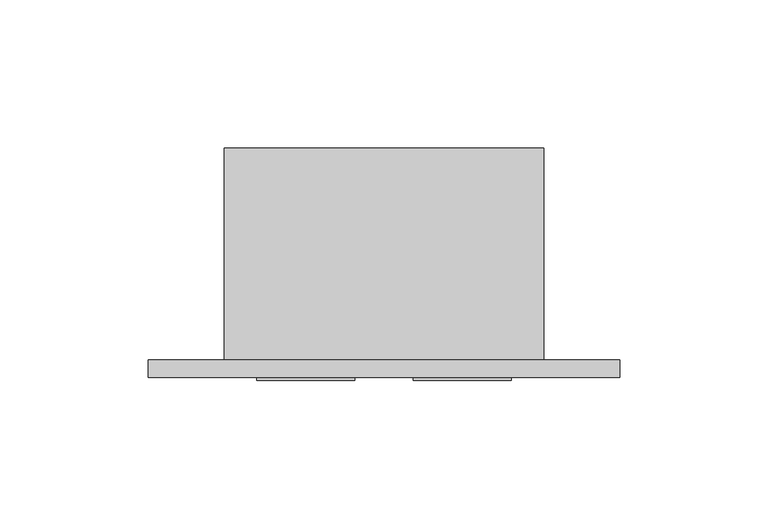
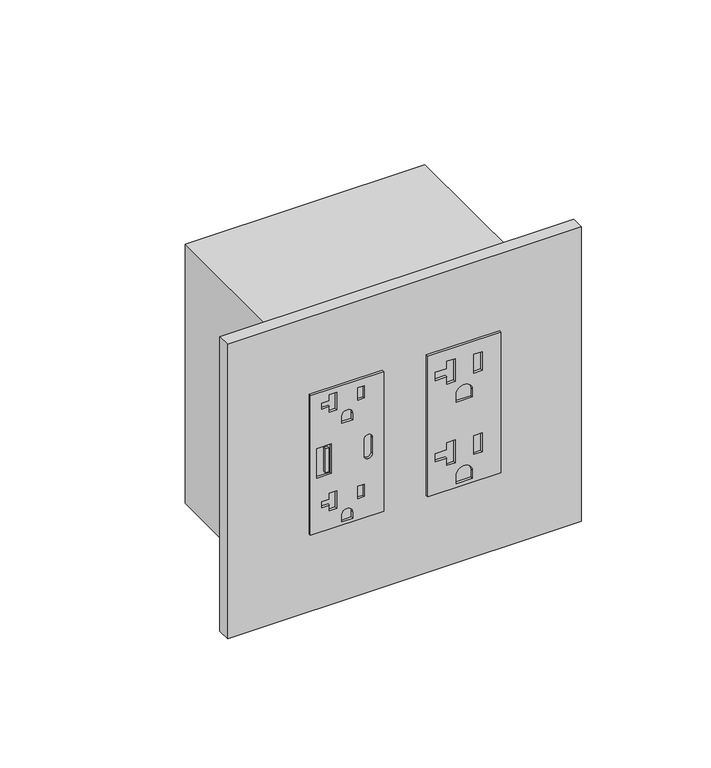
"""IFC4 building model written with IfcOpenShell, lengths in millimetres: proxy geometry, Electrical-Teknion-EPDMD_Vertical_Power_Data_Double-R2019 : PD Vertical Module - Double 20 Amp USB (A+C) & 20 Amp Standard."""

from ifc_helpers import new_model, si_unit, point, frame, frame_2d, origin, place, context, project, spatial, polyline, circle_curve, trimmed, segment, composite_curve, outline, extrude, source, transform, mapped, element, save


def electrical_fixtures_9f06c1d8(model_context):
    return source(origin(), model_context, "Body", "SweptSolid", [
        extrude(outline(polyline([(490.3844229, 11.0998), (423.8364229, 11.0998), (423.8364229, 44.0944), (490.3844229, 44.0944), (490.3844229, 11.0998)]), holes=[polyline([(464.1589229, 14.0236066), (464.1589229, 20.5246617), (450.0619229, 20.5246617), (450.0619229, 14.0236066), (464.1589229, 14.0236066)]), composite_curve([segment(trimmed(circle_curve(frame_2d((460.8950229, 37.1348)), 1.905), [point((460.8950229, 35.2298))], [point((460.8950229, 39.0398))], True, "CARTESIAN"), True, "CONTINUOUS"), segment(polyline([(460.8950229, 39.0398), (453.3258229, 39.0398)]), True, "CONTINUOUS"), segment(trimmed(circle_curve(frame_2d((453.3258229, 37.1348)), 1.905), [point((453.3258229, 39.0398))], [point((453.3258229, 35.2298))], True, "CARTESIAN"), True, "CONTINUOUS"), segment(polyline([(453.3258229, 35.2298), (460.8950229, 35.2298)]), True, "CONTINUOUS")], self_intersect=False), composite_curve([segment(polyline([(425.3604229, 30.0609), (425.3604229, 25.1333), (428.4592229, 25.1333)]), True, "CONTINUOUS"), segment(trimmed(circle_curve(frame_2d((428.4592229, 27.5971)), 2.4638), [point((428.4592229, 25.1333))], [point((428.4592229, 30.0609))], True, "CARTESIAN"), True, "CONTINUOUS"), segment(polyline([(428.4592229, 30.0609), (425.3604229, 30.0609)]), True, "CONTINUOUS")], self_intersect=False), polyline([(440.9306229, 22.9616), (432.631589, 22.9616), (432.631589, 19.6342), (435.3147869, 19.6342), (435.3147869, 16.1036), (438.0524041, 16.1036), (438.0524041, 19.6342), (440.9306229, 19.6342), (440.9306229, 22.9616)]), composite_curve([segment(polyline([(472.3504229, 25.1333), (475.4492229, 25.1333)]), True, "CONTINUOUS"), segment(trimmed(circle_curve(frame_2d((475.4492229, 27.5971)), 2.4638), [point((475.4492229, 25.1333))], [point((475.4492229, 30.0609))], True, "CARTESIAN"), True, "CONTINUOUS"), segment(polyline([(475.4492229, 30.0609), (472.3504229, 30.0609), (472.3504229, 25.1333)]), True, "CONTINUOUS")], self_intersect=False), polyline([(480.8678878, 32.4358), (486.6910404, 32.4358), (486.6910404, 35.41014), (480.8678878, 35.41014), (480.8678878, 32.4358)]), polyline([(433.8778878, 32.4358), (439.7010404, 32.4358), (439.7010404, 35.41014), (433.8778878, 35.41014), (433.8778878, 32.4358)]), polyline([(487.9206229, 22.9616), (479.621589, 22.9616), (479.621589, 19.6342), (482.3047869, 19.6342), (482.3047869, 16.1036), (485.0424041, 16.1036), (485.0424041, 19.6342), (487.9206229, 19.6342), (487.9206229, 22.9616)])]), frame((0.0, -6.9294746, 0.0), z_axis=(0.0, 1.0, 0.0), x_axis=(0.0, 0.0, 1.0)), (0.0, 0.0, 1.0), 1.0366746),
        extrude(outline(polyline([(19.314835, -6.9294746), (17.7939058, -6.9294746), (17.7939058, -5.8928), (19.314835, -5.8928), (19.314835, -6.9294746)])), frame((0.0, 0.0, 451.3845775), z_axis=(0.0, 0.0, 1.0), x_axis=(1.0, 0.0, 0.0)), (0.0, 0.0, 1.0), 11.4436352),
        extrude(outline(polyline([(490.6772, 96.9264), (490.6772, 63.9318), (423.7228, 63.9318), (423.7228, 96.9264), (490.6772, 96.9264)]), holes=[polyline([(443.0776, 72.4408), (446.5574, 72.4408), (446.5574, 76.2762), (435.737, 76.2762), (435.737, 72.4408), (439.2168, 72.4408), (439.2168, 67.3354), (443.0776, 67.3354), (443.0776, 72.4408)]), polyline([(445.5795, 88.4428), (436.7149, 88.4428), (436.7149, 84.6074), (445.5795, 84.6074), (445.5795, 88.4428)]), composite_curve([segment(polyline([(429.1838, 84.0613), (425.5516, 84.0613), (425.5516, 76.7969), (429.1838, 76.7969)]), True, "CONTINUOUS"), segment(trimmed(circle_curve(frame_2d((429.1838, 80.4291)), 3.6322), [point((429.1838, 76.7969))], [point((429.1838, 84.0613))], True, "CARTESIAN"), True, "CONTINUOUS")], self_intersect=False), polyline([(481.8126, 72.4408), (485.2924, 72.4408), (485.2924, 76.2762), (474.472, 76.2762), (474.472, 72.4408), (477.9518, 72.4408), (477.9518, 67.3354), (481.8126, 67.3354), (481.8126, 72.4408)]), polyline([(484.3145, 88.4428), (475.4499, 88.4428), (475.4499, 84.6074), (484.3145, 84.6074), (484.3145, 88.4428)]), composite_curve([segment(polyline([(467.9188, 84.0613), (464.2866, 84.0613), (464.2866, 76.7969), (467.9188, 76.7969)]), True, "CONTINUOUS"), segment(trimmed(circle_curve(frame_2d((467.9188, 80.4291)), 3.6322), [point((467.9188, 76.7969))], [point((467.9188, 84.0613))], True, "CARTESIAN"), True, "CONTINUOUS")], self_intersect=False)]), frame((0.0, -6.9294746, 0.0), z_axis=(0.0, 1.0, 0.0), x_axis=(0.0, 0.0, 1.0)), (0.0, 0.0, 1.0), 1.0366746),
        extrude(outline(polyline([(-25.6794, 0.0), (133.7056, 0.0), (133.7056, -5.8928), (-25.6794, -5.8928), (-25.6794, 0.0)])), frame((0.0, 0.0, 386.9302229), z_axis=(0.0, 0.0, 1.0), x_axis=(1.0, 0.0, 0.0)), (0.0, 0.0, 1.0), 140.3604),
        extrude(outline(polyline([(108.0262, 0.0), (0.0, 0.0), (0.0, 71.7296), (108.0262, 71.7296), (108.0262, 0.0)])), frame((0.0, 0.0, 395.3630229), z_axis=(0.0, 0.0, 1.0), x_axis=(1.0, 0.0, 0.0)), (0.0, 0.0, 1.0), 123.4948),
    ])


if __name__ == "__main__":
    model = new_model("IFC4")
    model_context = context("Model", 3, world=origin())
    ifc_project = project(units=[si_unit("LENGTHUNIT", "METRE", prefix="MILLI")], contexts=[model_context])
    site = spatial("IfcSite", under=ifc_project)
    building = spatial("IfcBuilding", under=site)
    placement = place(None, origin())
    electrical_fixtures_shape = electrical_fixtures_9f06c1d8(model_context)
    element("IfcBuildingElementProxy", 1, Name="Electrical-Teknion-EPDMD_Vertical_Power_Data_Double-R2019 : PD Vertical Module - Double 20 Amp USB (A+C) & 20 Amp Standard", ObjectType="Electrical-Teknion-EPDMD_Vertical_Power_Data_Double-R2019 : PD Vertical Module - Double 20 Amp USB (A+C) & 20 Amp Standard", at=placement, inside=building, context=model_context, shape_type="MappedRepresentation", body=[
        mapped(electrical_fixtures_shape, transform((0.0, 0.0, 0.0), x_axis=(1.0, 0.0, 0.0), y_axis=(0.0, 1.0, 0.0), z_axis=(0.0, 0.0, 1.0))),
    ])
    save(model, "model.ifc")
